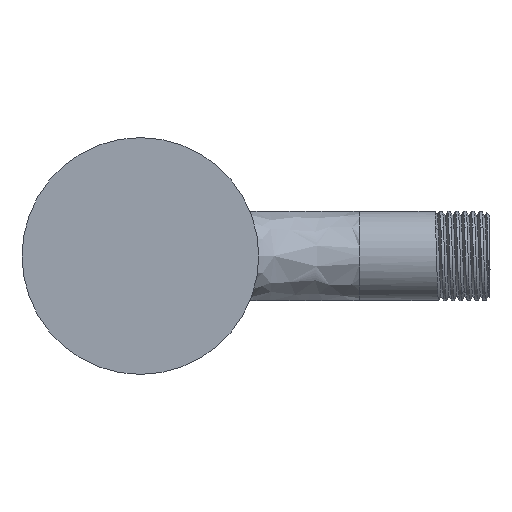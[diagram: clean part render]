
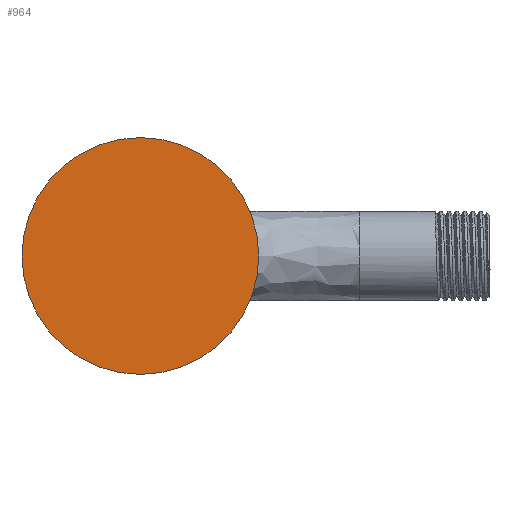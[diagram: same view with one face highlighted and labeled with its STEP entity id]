
A CAD part, front view. The second image highlights one B-rep face of the part: STEP entity #964.
In plain terms, the highlighted planar face has unit normal (0, -1, 0).
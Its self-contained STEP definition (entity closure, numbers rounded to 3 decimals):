
#198 = CIRCLE ( 'NONE', #488, 27. ) ;
#278 = DIRECTION ( 'NONE',  ( 0., 0., 1. ) ) ;
#488 = AXIS2_PLACEMENT_3D ( 'NONE', #522, #1559, #2974 ) ;
#522 = CARTESIAN_POINT ( 'NONE',  ( 0., 0., 0. ) ) ;
#962 = EDGE_LOOP ( 'NONE', ( #1714 ) ) ;
#964 = ADVANCED_FACE ( 'NONE', ( #2047 ), #4167, .F. ) ;
#1559 = DIRECTION ( 'NONE',  ( 0., -1., 0. ) ) ;
#1714 = ORIENTED_EDGE ( 'NONE', *, *, #2338, .T. ) ;
#2047 = FACE_OUTER_BOUND ( 'NONE', #962, .T. ) ;
#2326 = DIRECTION ( 'NONE',  ( 0., 1., 0. ) ) ;
#2338 = EDGE_CURVE ( 'NONE', #3490, #3490, #198, .T. ) ;
#2974 = DIRECTION ( 'NONE',  ( 0., 0., -1. ) ) ;
#3467 = CARTESIAN_POINT ( 'NONE',  ( -27., 0., 0. ) ) ;
#3490 = VERTEX_POINT ( 'NONE', #4447 ) ;
#3879 = AXIS2_PLACEMENT_3D ( 'NONE', #3467, #2326, #278 ) ;
#4167 = PLANE ( 'NONE',  #3879 ) ;
#4447 = CARTESIAN_POINT ( 'NONE',  ( 0., 0., -27. ) ) ;
